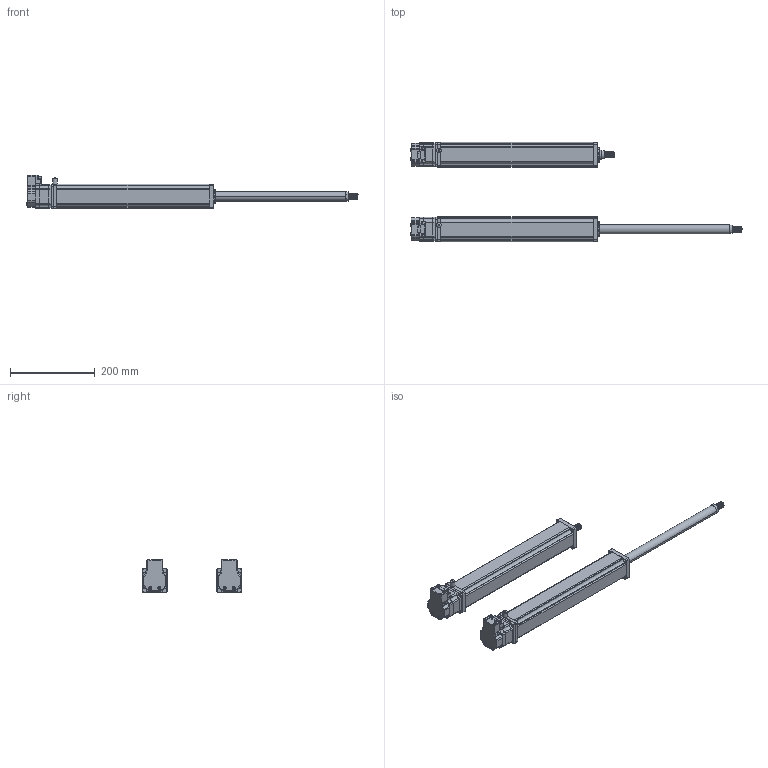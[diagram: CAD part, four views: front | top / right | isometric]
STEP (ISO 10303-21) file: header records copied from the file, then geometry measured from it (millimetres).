
FILE_DESCRIPTION(('FreeCAD Model'),'2;1');
FILE_NAME('Open CASCADE Shape Model','2023-08-04T13:03:54',('Author'),( ''),'Open CASCADE STEP processor 7.5','FreeCAD','Unknown');
FILE_SCHEMA(('AUTOMOTIVE_DESIGN { 1 0 10303 214 1 1 1 1 }'));
Length unit declared in the file: millimetre
Products named in the file (51): Unnamed; Shapes; Shapes001; Shapes002; Shapes003; Shapes004; Shapes005; Shapes006; Shapes007; Shapes008; Shapes009; Shapes010; Shapes011; Shapes012; Shapes013; Shapes014; Shapes015; Shapes016; Shapes017; Shapes018; Shapes019; Shapes020; Shapes021; Shapes022; Shapes023; Shapes024; Shapes025; Shapes026; Shapes027; Shapes028; Shapes029; Shapes030; Shapes031; Shapes032; Shapes033; Shapes034; Shapes035; Shapes036; Shapes037; Shapes038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
Assembly tree (50 placements, depth 2):
  Unnamed
    Shapes
    Shapes001
    Shapes002
    Shapes003
    Shapes004
    Shapes005
    Shapes006
    Shapes007
    Shapes008
    Shapes009
    Shapes010
    Shapes011
    Shapes012
    Shapes013
    Shapes014
    Shapes015
    Shapes016
    Shapes017
    Shapes018
    Shapes019
    Shapes020
    Shapes021
    Shapes022
    Shapes023
    Shapes024
    Shapes025
    Shapes026
    Shapes027
    Shapes028
    Shapes029
    Shapes030
    Shapes031
    Shapes032
    Shapes033
    Shapes034
    Shapes035
    Shapes036
    Shapes037
    Shapes038
    Shapes039
    Shapes040
    Shapes041
    Shapes042
    Shapes043
    Shapes044
    Shapes045
    Shapes047
    Shapes048
    AN10-01
    AN10-002
Bounding box: 781.42 x 233.23 x 79 mm (x, y, z)
Volume: 2766133.2 mm3; surface area: 338119.7 mm2
Topology: 50 solids, 50 shells, 1466 faces, 3880 edges, 2526 vertices
Faces by surface type: plane 830, cylinder 516, bspline 60, torus 46, sphere 10, cone 4
Full cylindrical faces by diameter (mm): 6 x2, 9.728 x2, 11 x2
Entity records: 153701 total; most frequent: CARTESIAN_POINT 75501, DIRECTION 14447, LINE 9073, VECTOR 9073, ORIENTED_EDGE 7728, PCURVE 7728, DEFINITIONAL_REPRESENTATION 7728, EDGE_CURVE 3864
